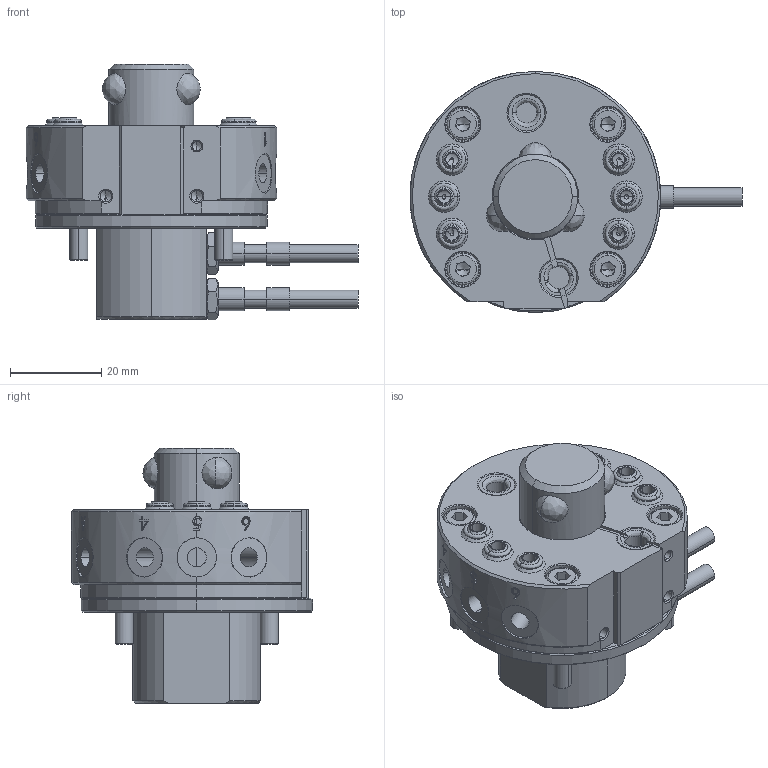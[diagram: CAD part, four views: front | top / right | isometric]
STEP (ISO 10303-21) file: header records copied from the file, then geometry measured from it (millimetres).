
FILE_DESCRIPTION (( 'STEP AP203' ), '1' );
FILE_NAME ('QCA-15R-S.STEP', '2024-03-19T07:55:24', ( '微软用户' ), ( '微软中国' ), 'SwSTEP 2.0', 'SolidWorks 2018', '' );
FILE_SCHEMA (( 'CONFIG_CONTROL_DESIGN' ));
Length unit declared in the file: millimetre
Products named in the file (1): QCA-15R-S
Bounding box: 72.84 x 52.9 x 56.16 mm (x, y, z)
Volume: 61709.4 mm3; surface area: 18458.9 mm2
Topology: 1 solids, 17 shells, 787 faces, 1854 edges, 1142 vertices
Faces by surface type: plane 260, cylinder 237, cone 221, bspline 69
Entity records: 27092 total; most frequent: CARTESIAN_POINT 9247, DIRECTION 3775, ORIENTED_EDGE 3626, EDGE_CURVE 1813, AXIS2_PLACEMENT_3D 1485, VERTEX_POINT 1142, EDGE_LOOP 885, VECTOR 805
